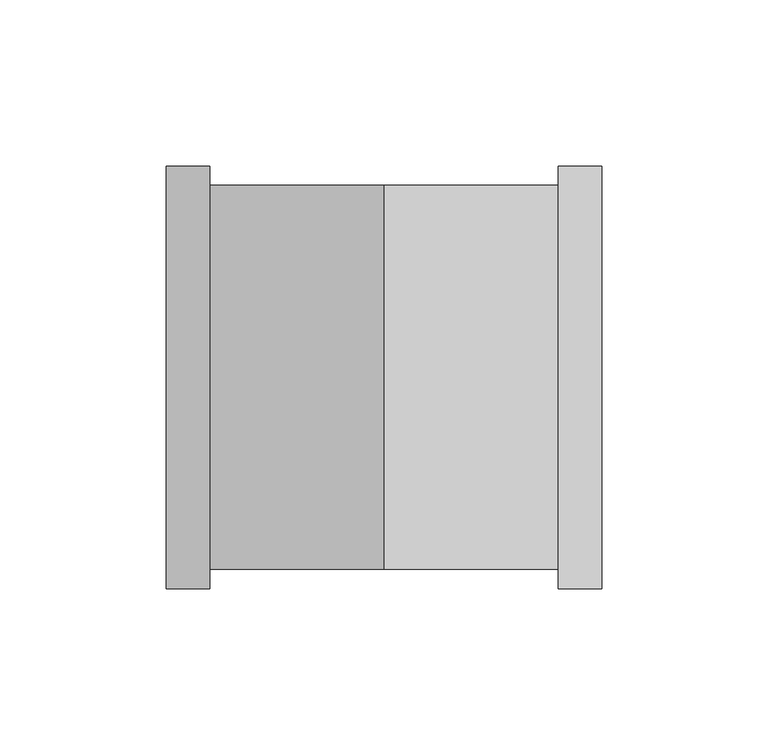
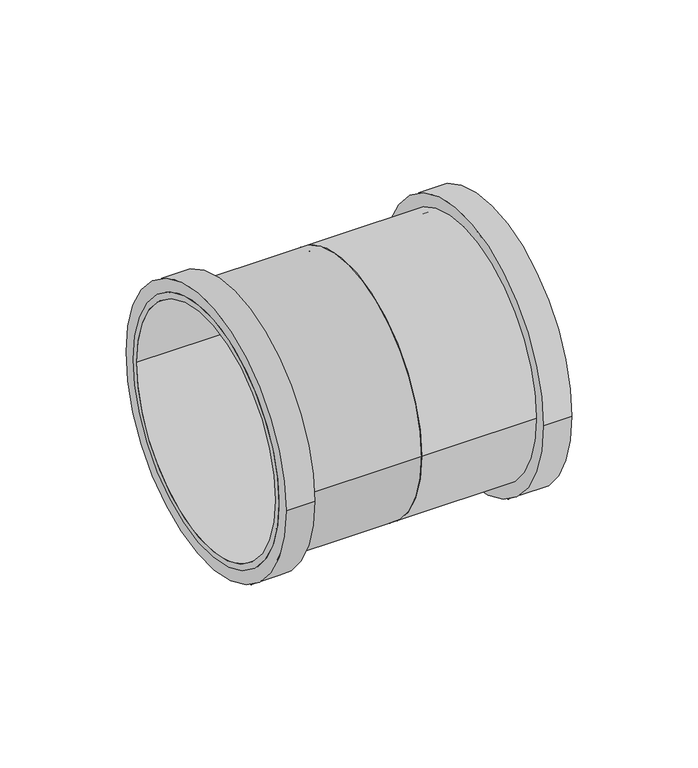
"""IFC4 building model written with IfcOpenShell, lengths in millimetres: pipe fitting geometry, Superdrain HTU-coupler : Superdrain HTU-coupler."""

from ifc_helpers import new_model, si_unit, point, frame, origin, origin_2d, place, context, project, spatial, circle_curve, trimmed, segment, composite_curve, outline, extrude, source, transform, mapped, element, save


def pipe_fitting_ef411e22(model_context):
    return source(origin(), model_context, "Body", "SweptSolid", [
        extrude(outline(composite_curve([segment(trimmed(circle_curve(origin_2d(), 57.75), [point((57.75, 0.0))], [point((-57.75, 0.0))], False, "CARTESIAN"), True, "CONTINUOUS"), segment(trimmed(circle_curve(origin_2d(), 57.75), [point((-57.75, 0.0))], [point((57.75, 0.0))], False, "CARTESIAN"), True, "CONTINUOUS")], self_intersect=False), holes=[composite_curve([segment(trimmed(circle_curve(origin_2d(), 55.0), [point((55.0, 0.0))], [point((-55.0, 0.0))], True, "CARTESIAN"), True, "CONTINUOUS"), segment(trimmed(circle_curve(origin_2d(), 55.0), [point((-55.0, 0.0))], [point((55.0, 0.0))], True, "CARTESIAN"), True, "CONTINUOUS")], self_intersect=False)]), frame((0.0, 0.0, 0.0), z_axis=(1.0, 0.0, 0.0), x_axis=(0.0, 1.0, 0.0)), (0.0, 0.0, 1.0), 65.5),
        extrude(outline(composite_curve([segment(trimmed(circle_curve(origin_2d(), 63.525), [point((63.525, 0.0))], [point((-63.525, 0.0))], False, "CARTESIAN"), True, "CONTINUOUS"), segment(trimmed(circle_curve(origin_2d(), 63.525), [point((-63.525, 0.0))], [point((63.525, 0.0))], False, "CARTESIAN"), True, "CONTINUOUS")], self_intersect=False), holes=[composite_curve([segment(trimmed(circle_curve(origin_2d(), 55.0), [point((55.0, 0.0))], [point((-55.0, 0.0))], True, "CARTESIAN"), True, "CONTINUOUS"), segment(trimmed(circle_curve(origin_2d(), 55.0), [point((-55.0, 0.0))], [point((55.0, 0.0))], True, "CARTESIAN"), True, "CONTINUOUS")], self_intersect=False)]), frame((52.4, 0.0, 0.0), z_axis=(1.0, 0.0, 0.0), x_axis=(0.0, 1.0, 0.0)), (0.0, 0.0, 1.0), 13.1),
        extrude(outline(composite_curve([segment(trimmed(circle_curve(origin_2d(), 57.75), [point((-57.75, 0.0))], [point((57.75, 0.0))], False, "CARTESIAN"), True, "CONTINUOUS"), segment(trimmed(circle_curve(origin_2d(), 57.75), [point((57.75, 0.0))], [point((-57.75, 0.0))], False, "CARTESIAN"), True, "CONTINUOUS")], self_intersect=False), holes=[composite_curve([segment(trimmed(circle_curve(origin_2d(), 55.0), [point((-55.0, 0.0))], [point((55.0, 0.0))], True, "CARTESIAN"), True, "CONTINUOUS"), segment(trimmed(circle_curve(origin_2d(), 55.0), [point((55.0, 0.0))], [point((-55.0, 0.0))], True, "CARTESIAN"), True, "CONTINUOUS")], self_intersect=False)]), frame((-65.5, 0.0, 0.0), z_axis=(1.0, 0.0, 0.0), x_axis=(0.0, 1.0, 0.0)), (0.0, 0.0, 1.0), 65.5),
        extrude(outline(composite_curve([segment(trimmed(circle_curve(origin_2d(), 63.525), [point((-63.525, 0.0))], [point((63.525, 0.0))], False, "CARTESIAN"), True, "CONTINUOUS"), segment(trimmed(circle_curve(origin_2d(), 63.525), [point((63.525, 0.0))], [point((-63.525, 0.0))], False, "CARTESIAN"), True, "CONTINUOUS")], self_intersect=False), holes=[composite_curve([segment(trimmed(circle_curve(origin_2d(), 55.0), [point((-55.0, 0.0))], [point((55.0, 0.0))], True, "CARTESIAN"), True, "CONTINUOUS"), segment(trimmed(circle_curve(origin_2d(), 55.0), [point((55.0, 0.0))], [point((-55.0, 0.0))], True, "CARTESIAN"), True, "CONTINUOUS")], self_intersect=False)]), frame((-65.5, 0.0, 0.0), z_axis=(1.0, 0.0, 0.0), x_axis=(0.0, 1.0, 0.0)), (0.0, 0.0, 1.0), 13.1),
    ])


if __name__ == "__main__":
    model = new_model("IFC4")
    model_context = context("Model", 3, world=origin())
    ifc_project = project(units=[si_unit("LENGTHUNIT", "METRE", prefix="MILLI")], contexts=[model_context])
    site = spatial("IfcSite", under=ifc_project)
    building = spatial("IfcBuilding", under=site)
    placement = place(None, origin())
    pipe_fitting_shape = pipe_fitting_ef411e22(model_context)
    element("IfcPipeFitting", 1, ObjectType="Superdrain HTU-coupler : Superdrain HTU-coupler", at=placement, inside=building, context=model_context, shape_type="MappedRepresentation", body=[
        mapped(pipe_fitting_shape, transform((0.0, 0.0, 0.0), x_axis=(1.0, 0.0, 0.0), y_axis=(0.0, 1.0, 0.0), z_axis=(0.0, 0.0, 1.0))),
    ])
    save(model, "model.ifc")
